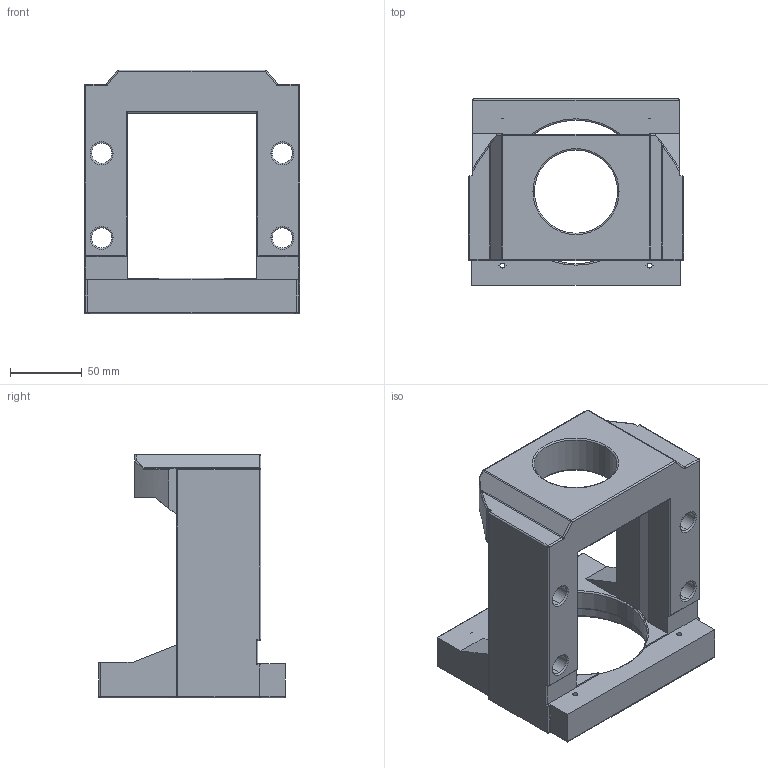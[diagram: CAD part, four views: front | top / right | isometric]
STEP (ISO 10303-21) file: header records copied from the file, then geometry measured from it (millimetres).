
FILE_DESCRIPTION (( 'STEP AP203' ), '1' );
FILE_NAME ('WBK20DF大量傳動座(MBB20-G).STEP', '2020-07-01T06:00:11', ( '' ), ( '' ), 'SwSTEP 2.0', 'SolidWorks 2018', '' );
FILE_SCHEMA (( 'CONFIG_CONTROL_DESIGN' ));
Length unit declared in the file: millimetre
Products named in the file (1): WBK20DF大量傳動座(MBB20-G)
Bounding box: 150 x 130 x 170 mm (x, y, z)
Volume: 855640.1 mm3; surface area: 127324.6 mm2
Topology: 1 solids, 1 shells, 229 faces, 565 edges, 318 vertices
Faces by surface type: cylinder 100, plane 47, torus 32, cone 32, sphere 14, bspline 4
Entity records: 6722 total; most frequent: CARTESIAN_POINT 1327, DIRECTION 1187, ORIENTED_EDGE 1070, EDGE_CURVE 535, AXIS2_PLACEMENT_3D 468, VERTEX_POINT 318, EDGE_LOOP 261, VECTOR 251
